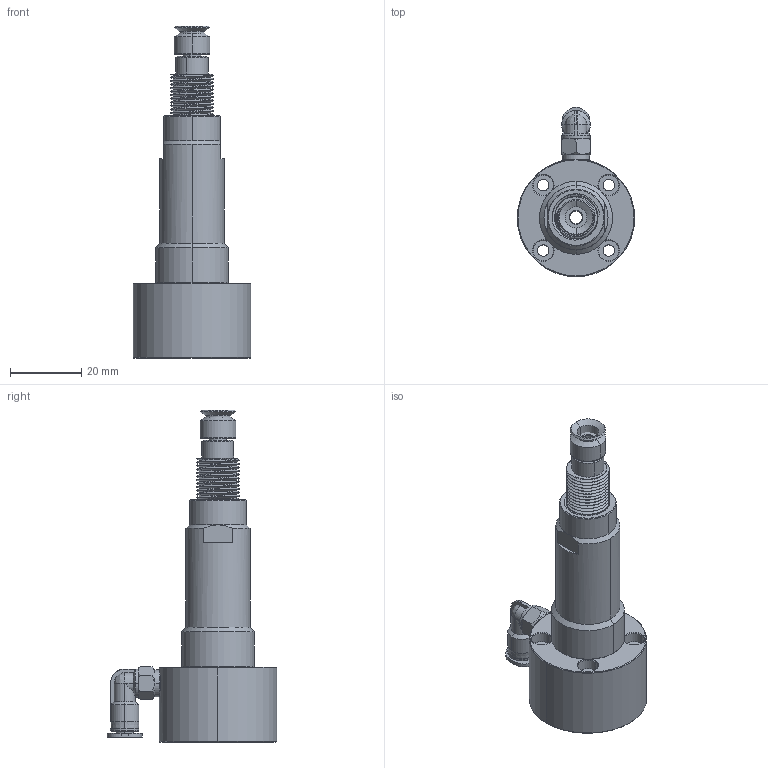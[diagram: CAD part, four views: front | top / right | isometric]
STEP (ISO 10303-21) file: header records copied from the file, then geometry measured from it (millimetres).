
FILE_DESCRIPTION (( 'STEP AP214' ), '1' );
FILE_NAME ('Solo testina aspirazione Mito 010119.STEP', '2017-09-18T12:11:28', ( '' ), ( '' ), 'SwSTEP 2.0', 'SolidWorks 2017', '' );
FILE_SCHEMA (( 'AUTOMOTIVE_DESIGN' ));
Length unit declared in the file: millimetre
Products named in the file (1): Solo testina aspirazione Mito 010119
Bounding box: 33 x 47.6 x 93.28 mm (x, y, z)
Volume: 14863.7 mm3; surface area: 16481 mm2
Topology: 5 solids, 6 shells, 329 faces, 805 edges, 507 vertices
Faces by surface type: cylinder 176, cone 76, plane 58, bspline 19
Entity records: 21063 total; most frequent: CARTESIAN_POINT 10169, ORIENTED_EDGE 1606, DIRECTION 1422, EDGE_CURVE 803, AXIS2_PLACEMENT_3D 569, VERTEX_POINT 507, EDGE_LOOP 370, UNCERTAINTY_MEASURE_WITH_UNIT 336
